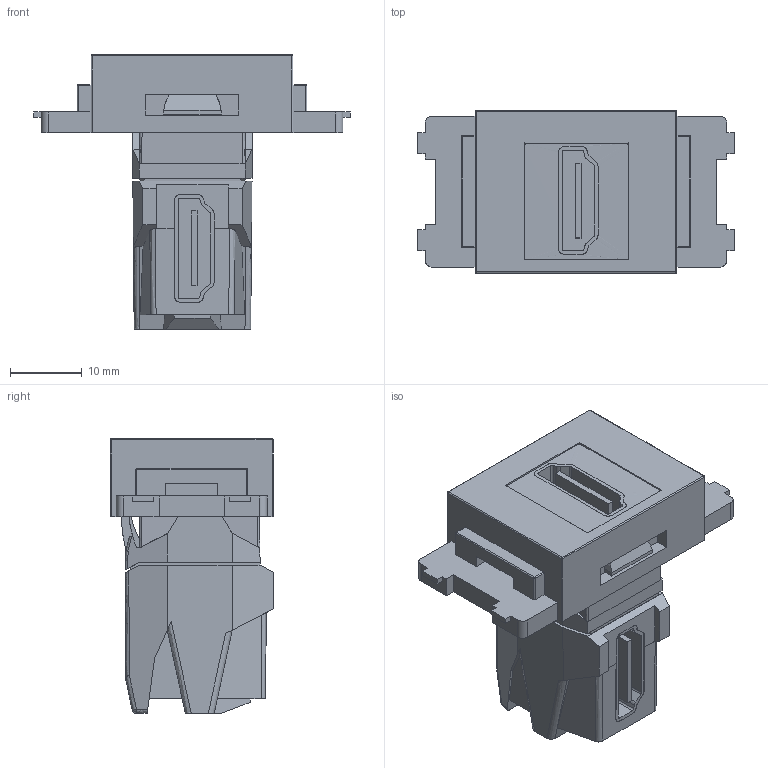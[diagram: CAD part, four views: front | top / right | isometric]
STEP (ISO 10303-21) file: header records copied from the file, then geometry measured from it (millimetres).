
FILE_DESCRIPTION(('FreeCAD Model'),'2;1');
FILE_NAME('Open CASCADE Shape Model','2026-05-12T09:47:00',(''),(''), 'Open CASCADE STEP processor 7.8','FreeCAD','Unknown');
FILE_SCHEMA(('AUTOMOTIVE_DESIGN { 1 0 10303 214 1 1 1 1 }'));
Length unit declared in the file: millimetre
Products named in the file (3): CC_LHDMI_XX_KH; SY-NWT-KH-xx; 210HD05G2xx
Assembly tree (2 placements, depth 2):
  CC_LHDMI_XX_KH
    SY-NWT-KH-xx
    210HD05G2xx
Bounding box: 43.95 x 22.74 x 38.15 mm (x, y, z)
Volume: 12707.9 mm3; surface area: 8323.1 mm2
Topology: 2 solids, 2 shells, 337 faces, 929 edges, 598 vertices
Faces by surface type: bspline 337
Entity records: 15175 total; most frequent: CARTESIAN_POINT 9513, ORIENTED_EDGE 1858, EDGE_CURVE 929, B_SPLINE_CURVE_WITH_KNOTS 929, VERTEX_POINT 598, FACE_BOUND 349, EDGE_LOOP 349, ADVANCED_FACE 337
